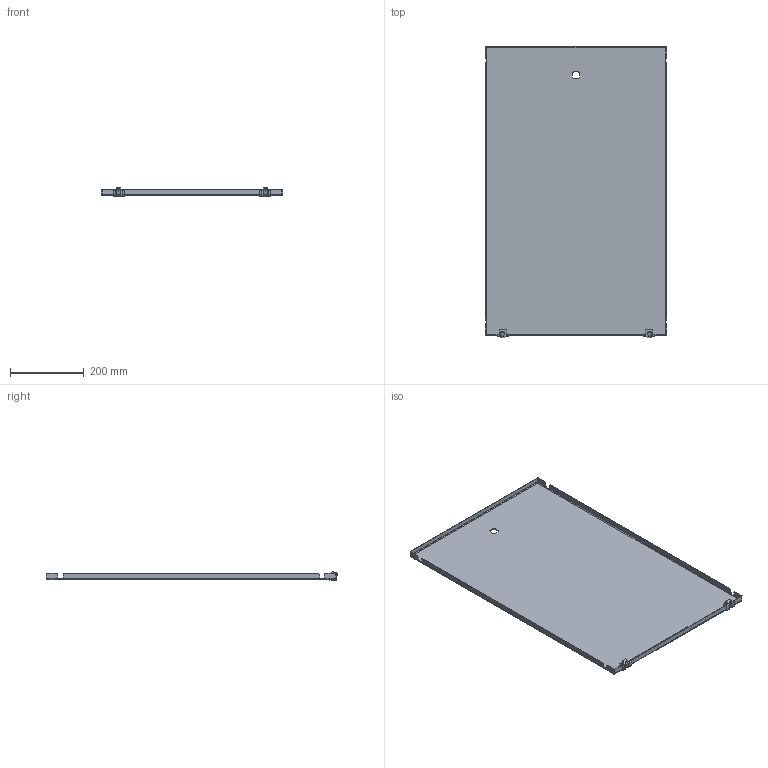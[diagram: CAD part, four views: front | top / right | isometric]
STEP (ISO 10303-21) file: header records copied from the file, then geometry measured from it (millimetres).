
FILE_DESCRIPTION (( 'STEP AP214' ), '1' );
FILE_NAME ('Äâåðü âíåøíÿÿ ìîäóëüíàÿ OptiBox M-500õ800 (259192).STEP', '2018-07-16T06:30:42', ( '' ), ( '' ), 'SwSTEP 2.0', 'SolidWorks 2018', '' );
FILE_SCHEMA (( 'AUTOMOTIVE_DESIGN' ));
Length unit declared in the file: millimetre
Products named in the file (4): Äâåðü âíåøíÿÿ ìîäóëüíàÿ OptiBox M-500õ800 (259192); Ïåòëÿ2; ïåòëÿ äëÿ âíåøíåé äâåðè
Assembly tree (5 placements, depth 2):
  Äâåðü âíåøíÿÿ ìîäóëüíàÿ OptiBox M-500õ800 (259192)
    Äâåðü âíåøíÿÿ ìîäóëüíàÿ OptiBox M-500õ800 (259192)
    ïåòëÿ äëÿ âíåøíåé äâåðè  x2
    Ïåòëÿ2  x2
Bounding box: 492 x 792.36 x 24.08 mm (x, y, z)
Volume: 851661 mm3; surface area: 854734.5 mm2
Topology: 5 solids, 5 shells, 200 faces, 484 edges, 296 vertices
Faces by surface type: plane 142, cylinder 42, bspline 16
Entity records: 5456 total; most frequent: CARTESIAN_POINT 1921, ORIENTED_EDGE 720, DIRECTION 644, EDGE_CURVE 360, VECTOR 274, LINE 274, VERTEX_POINT 216, AXIS2_PLACEMENT_3D 185
